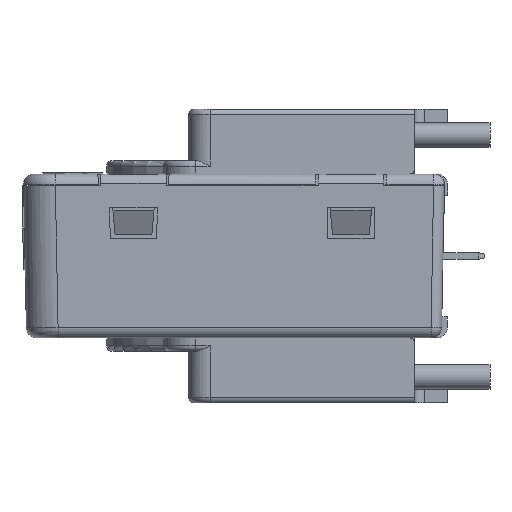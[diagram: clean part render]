
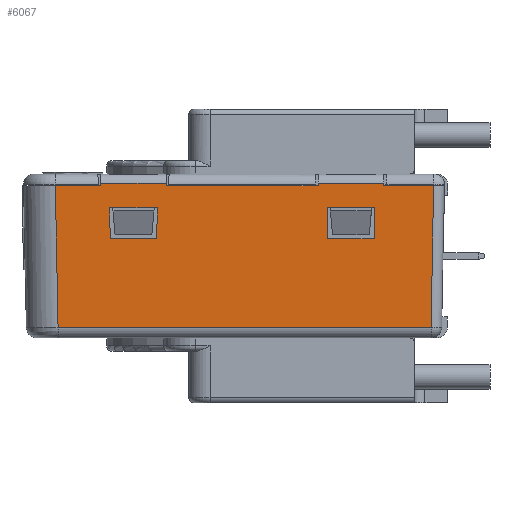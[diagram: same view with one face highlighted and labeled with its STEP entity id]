
A CAD part, left-side view. The second image highlights one B-rep face of the part: STEP entity #6067.
In plain terms, the highlighted planar face has unit normal (-1, 0, -0.019).
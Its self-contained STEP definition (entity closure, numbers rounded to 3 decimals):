
#648=LINE('',#24880,#2470);
#650=LINE('',#24884,#2472);
#656=LINE('',#24898,#2478);
#760=LINE('',#25212,#2582);
#821=LINE('',#25346,#2643);
#913=LINE('',#25569,#2735);
#916=LINE('',#25575,#2738);
#921=LINE('',#25591,#2743);
#925=LINE('',#25600,#2747);
#927=LINE('',#25606,#2749);
#929=LINE('',#25609,#2751);
#931=LINE('',#25614,#2753);
#936=LINE('',#25624,#2758);
#940=LINE('',#25634,#2762);
#943=LINE('',#25641,#2765);
#945=LINE('',#25647,#2767);
#947=LINE('',#25650,#2769);
#949=LINE('',#25655,#2771);
#954=LINE('',#25693,#2776);
#957=LINE('',#25698,#2779);
#958=LINE('',#25702,#2780);
#962=LINE('',#25709,#2784);
#963=LINE('',#25711,#2785);
#964=LINE('',#25712,#2786);
#2470=VECTOR('',#19618,1.);
#2472=VECTOR('',#19622,1.);
#2478=VECTOR('',#19630,1.);
#2582=VECTOR('',#19856,1.);
#2643=VECTOR('',#19957,1.);
#2735=VECTOR('',#20181,1.);
#2738=VECTOR('',#20186,1.);
#2743=VECTOR('',#20197,1.);
#2747=VECTOR('',#20203,1.);
#2749=VECTOR('',#20209,1.);
#2751=VECTOR('',#20213,1.);
#2753=VECTOR('',#20219,1.);
#2758=VECTOR('',#20228,1.);
#2762=VECTOR('',#20238,1.);
#2765=VECTOR('',#20243,1.);
#2767=VECTOR('',#20249,1.);
#2769=VECTOR('',#20253,1.);
#2771=VECTOR('',#20259,1.);
#2776=VECTOR('',#20278,1.);
#2779=VECTOR('',#20283,1.);
#2780=VECTOR('',#20290,1.);
#2784=VECTOR('',#20298,1.);
#2785=VECTOR('',#20301,1.);
#2786=VECTOR('',#20302,1.);
#4539=PLANE('',#17948);
#6067=ADVANCED_FACE('',(#7037,#7038,#7039),#4539,.T.);
#7037=FACE_BOUND('',#7466,.T.);
#7038=FACE_BOUND('',#7467,.T.);
#7039=FACE_BOUND('',#7468,.T.);
#7466=EDGE_LOOP('',(#9565,#9566,#9567,#9568,#9569,#9570));
#7467=EDGE_LOOP('',(#9571,#9572,#9573,#9574,#9575,#9576));
#7468=EDGE_LOOP('',(#9577,#9578,#9579,#9580,#9581,#9582,#9583,#9584,#9585,
#9586,#9587,#9588));
#9565=ORIENTED_EDGE('',*,*,#15638,.T.);
#9566=ORIENTED_EDGE('',*,*,#15641,.T.);
#9567=ORIENTED_EDGE('',*,*,#15643,.T.);
#9568=ORIENTED_EDGE('',*,*,#15291,.T.);
#9569=ORIENTED_EDGE('',*,*,#15669,.T.);
#9570=ORIENTED_EDGE('',*,*,#15285,.T.);
#9571=ORIENTED_EDGE('',*,*,#15283,.T.);
#9572=ORIENTED_EDGE('',*,*,#15670,.T.);
#9573=ORIENTED_EDGE('',*,*,#15605,.T.);
#9574=ORIENTED_EDGE('',*,*,#15616,.T.);
#9575=ORIENTED_EDGE('',*,*,#15619,.T.);
#9576=ORIENTED_EDGE('',*,*,#15621,.T.);
#9577=ORIENTED_EDGE('',*,*,#15635,.T.);
#9578=ORIENTED_EDGE('',*,*,#15646,.T.);
#9579=ORIENTED_EDGE('',*,*,#15668,.T.);
#9580=ORIENTED_EDGE('',*,*,#15427,.T.);
#9581=ORIENTED_EDGE('',*,*,#15498,.T.);
#9582=ORIENTED_EDGE('',*,*,#15664,.F.);
#9583=ORIENTED_EDGE('',*,*,#15659,.T.);
#9584=ORIENTED_EDGE('',*,*,#15662,.T.);
#9585=ORIENTED_EDGE('',*,*,#15612,.T.);
#9586=ORIENTED_EDGE('',*,*,#15624,.T.);
#9587=ORIENTED_EDGE('',*,*,#15630,.T.);
#9588=ORIENTED_EDGE('',*,*,#15602,.T.);
#13652=VERTEX_POINT('',#24879);
#13653=VERTEX_POINT('',#24881);
#13654=VERTEX_POINT('',#24885);
#13655=VERTEX_POINT('',#24886);
#13660=VERTEX_POINT('',#24897);
#13661=VERTEX_POINT('',#24899);
#13746=VERTEX_POINT('',#25211);
#13747=VERTEX_POINT('',#25213);
#13791=VERTEX_POINT('',#25345);
#13835=VERTEX_POINT('',#25563);
#13838=VERTEX_POINT('',#25568);
#13839=VERTEX_POINT('',#25572);
#13840=VERTEX_POINT('',#25574);
#13846=VERTEX_POINT('',#25590);
#13847=VERTEX_POINT('',#25592);
#13850=VERTEX_POINT('',#25599);
#13851=VERTEX_POINT('',#25604);
#13854=VERTEX_POINT('',#25615);
#13859=VERTEX_POINT('',#25633);
#13862=VERTEX_POINT('',#25640);
#13864=VERTEX_POINT('',#25646);
#13866=VERTEX_POINT('',#25656);
#13872=VERTEX_POINT('',#25690);
#13873=VERTEX_POINT('',#25692);
#15283=EDGE_CURVE('',#13653,#13652,#648,.T.);
#15285=EDGE_CURVE('',#13654,#13655,#650,.T.);
#15291=EDGE_CURVE('',#13661,#13660,#656,.T.);
#15427=EDGE_CURVE('',#13747,#13746,#760,.T.);
#15498=EDGE_CURVE('',#13746,#13791,#821,.T.);
#15602=EDGE_CURVE('',#13835,#13838,#913,.T.);
#15605=EDGE_CURVE('',#13839,#13840,#916,.T.);
#15612=EDGE_CURVE('',#13847,#13846,#921,.T.);
#15616=EDGE_CURVE('',#13840,#13850,#925,.T.);
#15619=EDGE_CURVE('',#13850,#13851,#927,.T.);
#15621=EDGE_CURVE('',#13851,#13653,#929,.T.);
#15624=EDGE_CURVE('',#13846,#13854,#931,.T.);
#15630=EDGE_CURVE('',#13854,#13835,#936,.T.);
#15635=EDGE_CURVE('',#13838,#13859,#940,.T.);
#15638=EDGE_CURVE('',#13655,#13862,#943,.T.);
#15641=EDGE_CURVE('',#13862,#13864,#945,.T.);
#15643=EDGE_CURVE('',#13864,#13661,#947,.T.);
#15646=EDGE_CURVE('',#13859,#13866,#949,.T.);
#15659=EDGE_CURVE('',#13872,#13873,#954,.T.);
#15662=EDGE_CURVE('',#13873,#13847,#957,.T.);
#15664=EDGE_CURVE('',#13872,#13791,#958,.T.);
#15668=EDGE_CURVE('',#13866,#13747,#962,.T.);
#15669=EDGE_CURVE('',#13660,#13654,#963,.T.);
#15670=EDGE_CURVE('',#13652,#13839,#964,.T.);
#17948=AXIS2_PLACEMENT_3D('',#25713,#20303,#20304);
#19618=DIRECTION('',(0.,-1.,0.));
#19622=DIRECTION('',(0.,-1.,0.));
#19630=DIRECTION('',(0.,-1.,0.));
#19856=DIRECTION('',(0.,1.,0.));
#19957=DIRECTION('',(0.019,-0.019,-1.));
#20181=DIRECTION('',(0.,1.,0.));
#20186=DIRECTION('',(0.,-1.,0.));
#20197=DIRECTION('',(-0.019,0.,1.));
#20203=DIRECTION('',(0.019,0.017,-1.));
#20209=DIRECTION('',(0.,1.,0.));
#20213=DIRECTION('',(-0.019,0.017,1.));
#20219=DIRECTION('',(0.,1.,0.));
#20228=DIRECTION('',(0.019,0.,-1.));
#20238=DIRECTION('',(-0.019,0.,1.));
#20243=DIRECTION('',(0.019,0.017,-1.));
#20249=DIRECTION('',(0.,1.,0.));
#20253=DIRECTION('',(-0.019,0.017,1.));
#20259=DIRECTION('',(0.,1.,0.));
#20278=DIRECTION('',(-0.019,-0.017,1.));
#20283=DIRECTION('',(0.,1.,0.));
#20290=DIRECTION('',(0.,1.,0.));
#20298=DIRECTION('',(0.019,0.,-1.));
#20301=DIRECTION('',(0.,-1.,0.));
#20302=DIRECTION('',(0.,-1.,0.));
#20303=DIRECTION('',(-1.,0.,-0.019));
#20304=DIRECTION('',(0.019,0.,-1.));
#24879=CARTESIAN_POINT('',(-311.445,-17.252,-71.775));
#24880=CARTESIAN_POINT('',(-311.445,-4.333,-71.775));
#24881=CARTESIAN_POINT('',(-311.445,-16.963,-71.775));
#24884=CARTESIAN_POINT('',(-311.445,-4.333,-71.775));
#24885=CARTESIAN_POINT('',(-311.445,-0.626,-71.775));
#24886=CARTESIAN_POINT('',(-311.445,-0.915,-71.775));
#24897=CARTESIAN_POINT('',(-311.445,3.298,-71.775));
#24898=CARTESIAN_POINT('',(-311.445,-4.333,-71.775));
#24899=CARTESIAN_POINT('',(-311.445,3.587,-71.775));
#25211=CARTESIAN_POINT('',(-311.486,8.723,-69.675));
#25212=CARTESIAN_POINT('',(-311.486,-27.474,-69.675));
#25213=CARTESIAN_POINT('',(-311.486,4.436,-69.675));
#25345=CARTESIAN_POINT('',(-311.226,8.463,-83.094));
#25346=CARTESIAN_POINT('',(-311.497,8.733,-69.13));
#25563=CARTESIAN_POINT('',(-311.486,-16.114,-69.675));
#25568=CARTESIAN_POINT('',(-311.486,-1.764,-69.675));
#25569=CARTESIAN_POINT('',(-311.486,-26.874,-69.675));
#25572=CARTESIAN_POINT('',(-311.445,-21.176,-71.775));
#25574=CARTESIAN_POINT('',(-311.445,-21.465,-71.775));
#25575=CARTESIAN_POINT('',(-311.445,-4.333,-71.775));
#25590=CARTESIAN_POINT('',(-311.491,-22.314,-69.438));
#25591=CARTESIAN_POINT('',(-311.461,-22.314,-70.97));
#25592=CARTESIAN_POINT('',(-311.486,-22.314,-69.675));
#25599=CARTESIAN_POINT('',(-311.389,-21.414,-74.675));
#25600=CARTESIAN_POINT('',(-311.496,-21.51,-69.177));
#25604=CARTESIAN_POINT('',(-311.389,-17.014,-74.675));
#25606=CARTESIAN_POINT('',(-311.389,-4.333,-74.675));
#25609=CARTESIAN_POINT('',(-311.506,-16.909,-68.658));
#25614=CARTESIAN_POINT('',(-311.491,-22.314,-69.438));
#25615=CARTESIAN_POINT('',(-311.491,-16.114,-69.438));
#25624=CARTESIAN_POINT('',(-311.501,-16.114,-68.877));
#25633=CARTESIAN_POINT('',(-311.491,-1.764,-69.438));
#25634=CARTESIAN_POINT('',(-311.501,-1.764,-68.877));
#25640=CARTESIAN_POINT('',(-311.389,-0.864,-74.675));
#25641=CARTESIAN_POINT('',(-311.503,-0.966,-68.818));
#25646=CARTESIAN_POINT('',(-311.389,3.536,-74.675));
#25647=CARTESIAN_POINT('',(-311.389,-4.333,-74.675));
#25650=CARTESIAN_POINT('',(-311.499,3.635,-69.016));
#25655=CARTESIAN_POINT('',(-311.491,-1.764,-69.438));
#25656=CARTESIAN_POINT('',(-311.491,4.436,-69.438));
#25690=CARTESIAN_POINT('',(-311.226,-26.797,-83.094));
#25692=CARTESIAN_POINT('',(-311.486,-27.031,-69.675));
#25693=CARTESIAN_POINT('',(-311.494,-27.038,-69.273));
#25698=CARTESIAN_POINT('',(-311.486,-26.874,-69.675));
#25702=CARTESIAN_POINT('',(-311.226,-7.414,-83.094));
#25709=CARTESIAN_POINT('',(-311.501,4.436,-68.877));
#25711=CARTESIAN_POINT('',(-311.445,-4.333,-71.775));
#25712=CARTESIAN_POINT('',(-311.445,-4.333,-71.775));
#25713=CARTESIAN_POINT('',(-311.501,-4.333,-68.877));
